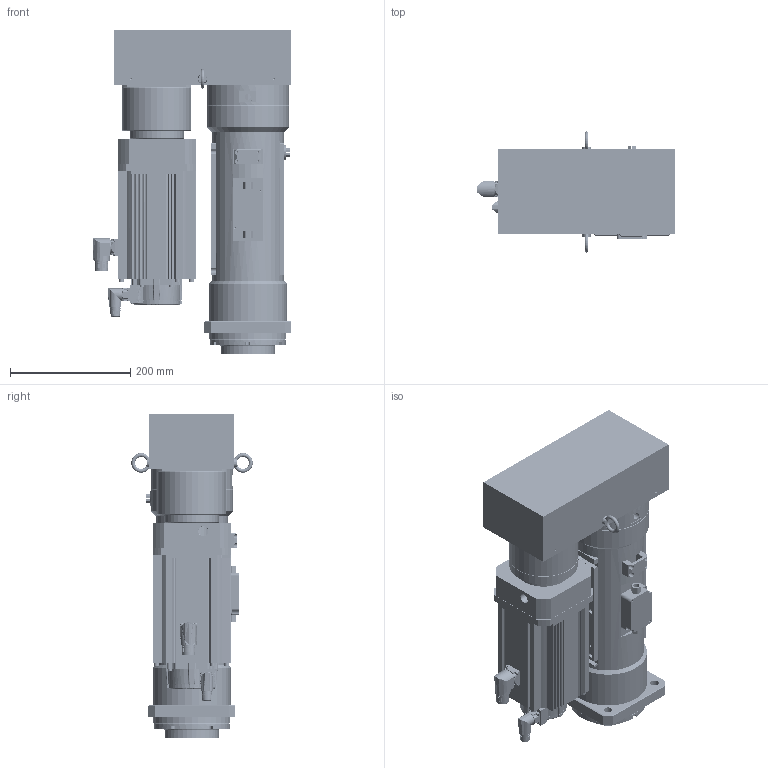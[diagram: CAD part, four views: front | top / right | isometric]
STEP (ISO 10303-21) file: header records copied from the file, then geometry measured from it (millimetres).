
FILE_DESCRIPTION( ('This file contains a STEP AP42 implementation' ,'as created by ZW3D STEP Interface translator.') ,'2;1' );
FILE_NAME( 'OACIS-DC-P035-P040-150-195-A6V400_V20.51.stp' ,'26 428.145747', (''), ('ZWCAD Software Co.'), 'Version 1.0', 'ZW3D to STEP translator', '' );
FILE_SCHEMA(('AUTOMOTIVE_DESIGN { 1 0 10303 214 1 1 1 1 }'));
Length unit declared in the file: millimetre
Products named in the file (1): 0
Bounding box: 331 x 202.25 x 541 mm (x, y, z)
Volume: 11010729.3 mm3; surface area: 1806206.9 mm2
Topology: 57 solids, 57 shells, 3767 faces, 9654 edges, 6193 vertices
Faces by surface type: cylinder 1776, plane 1459, cone 368, torus 107, bspline 45, sphere 12
Full cylindrical faces by diameter (mm): 1.25 x12, 1.567 x4, 2 x1, 2.232 x6, 2.459 x1, 2.8 x1, 3.242 x3, 3.3 x58, 4.2 x4, 4.3 x15, 4.5 x14, 4.917 x20, 5 x1, 5.3 x4, 5.5 x5, 6 x12, 6.647 x6, 6.8 x41, 7 x4, 8 x21, 8.4 x8, 8.5 x4, 9 x26, 9.5 x4, 9.78 x8, 10 x7, 10.104 x4, 10.106 x1, 10.2 x16, 10.5 x4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
Entity records: 132600 total; most frequent: CARTESIAN_POINT 31134, DIRECTION 21252, ORIENTED_EDGE 19120, EDGE_CURVE 9560, AXIS2_PLACEMENT_3D 8397, VERTEX_POINT 6190, CIRCLE 4645, VECTOR 4458
